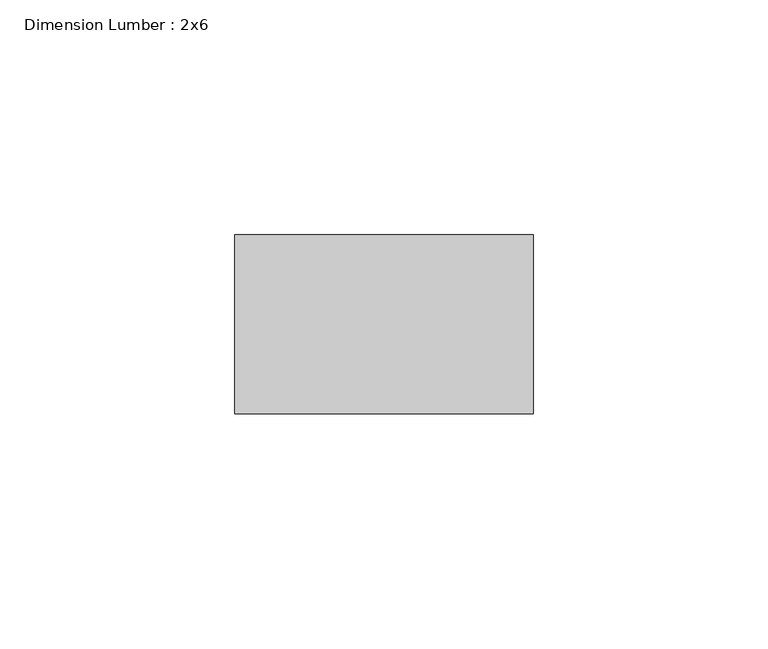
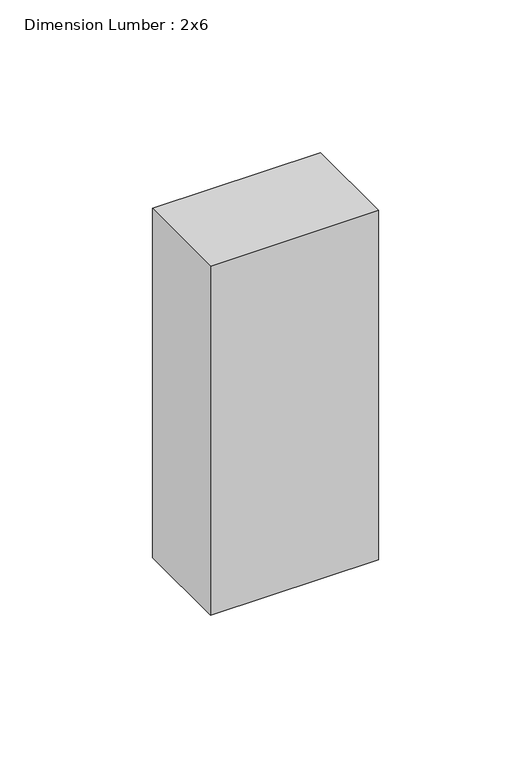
"""IFC4 building model written with IfcOpenShell, lengths in millimetres: beam geometry, Dimension Lumber : 2x6."""

from ifc_helpers import new_model, si_unit, frame, origin, place, context, project, spatial, polyline, outline, extrude, source, transform, mapped, element, save


def dimension_lumber_2x6_9fa49007(model_context):
    return source(origin(), model_context, "Body", "SweptSolid", [
        extrude(outline(polyline([(31.75, 19.05), (31.75, -19.05), (-31.75, -19.05), (-31.75, 19.05), (31.75, 19.05)])), frame((0.0, 0.0, -69.85), z_axis=(0.0, 0.0, 1.0), x_axis=(1.0, 0.0, 0.0)), (0.0, 0.0, 1.0), 139.7),
    ])


if __name__ == "__main__":
    model = new_model("IFC4")
    model_context = context("Model", 3, world=origin())
    ifc_project = project(units=[si_unit("LENGTHUNIT", "METRE", prefix="MILLI")], contexts=[model_context])
    site = spatial("IfcSite", under=ifc_project)
    building = spatial("IfcBuilding", under=site)
    placement = place(None, origin())
    dimension_lumber_2x6_shape = dimension_lumber_2x6_9fa49007(model_context)
    element("IfcBeam", 1, ObjectType="Dimension Lumber : 2x6", at=placement, inside=building, context=model_context, shape_type="MappedRepresentation", body=[
        mapped(dimension_lumber_2x6_shape, transform((0.0, 0.0, 0.0), x_axis=(1.0, 0.0, 0.0), y_axis=(0.0, 1.0, 0.0), z_axis=(0.0, 0.0, 1.0))),
    ])
    save(model, "model.ifc")
